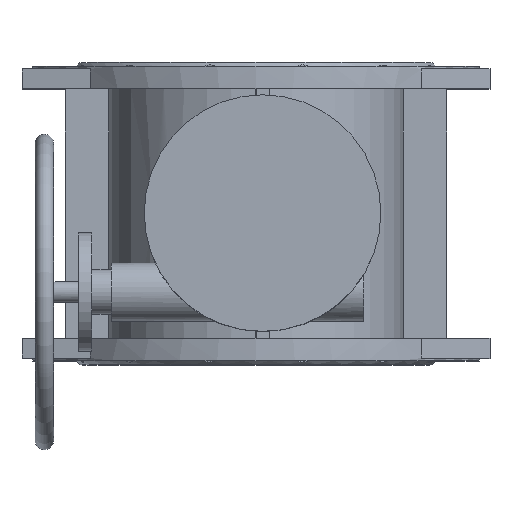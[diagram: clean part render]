
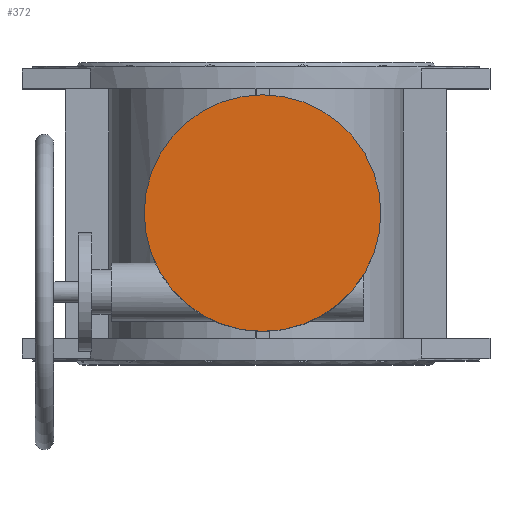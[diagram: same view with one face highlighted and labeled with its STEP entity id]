
A CAD part, top view. The second image highlights one B-rep face of the part: STEP entity #372.
In plain terms, the highlighted planar face has unit normal (0, 0, 1).
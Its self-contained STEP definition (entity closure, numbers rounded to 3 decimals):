
#372=ADVANCED_FACE('',(#1948),#1950,.T.);
#1948=FACE_BOUND('',#1949,.T.);
#1949=EDGE_LOOP('',(#3280));
#1950=PLANE('',#1951);
#1951=AXIS2_PLACEMENT_3D('',#1952,#1953,#1954);
#1952=CARTESIAN_POINT('',(5.,0.,280.));
#1953=DIRECTION('',(0.,0.,1.));
#1954=DIRECTION('',(0.,-1.,0.));
#3280=ORIENTED_EDGE('',*,*,#3979,.T.);
#3979=EDGE_CURVE('',#4465,#4465,#4466,.T.);
#4465=VERTEX_POINT('',#5469);
#4466=CIRCLE('',#5470,90.);
#5469=CARTESIAN_POINT('',(5.,-90.,280.));
#5470=AXIS2_PLACEMENT_3D('',#5471,#5472,#5473);
#5471=CARTESIAN_POINT('',(5.,0.,280.));
#5472=DIRECTION('',(0.,0.,1.));
#5473=DIRECTION('',(0.,-1.,0.));
